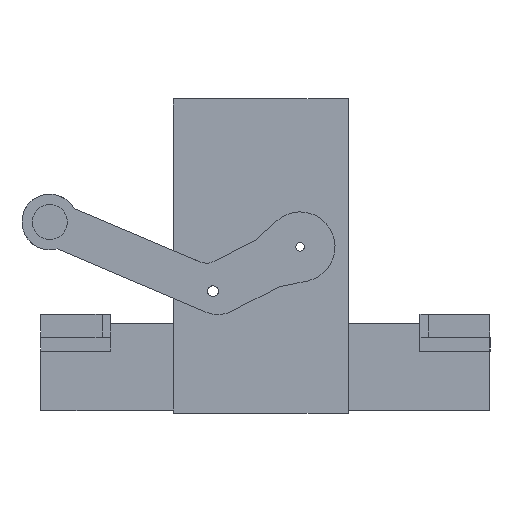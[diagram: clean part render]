
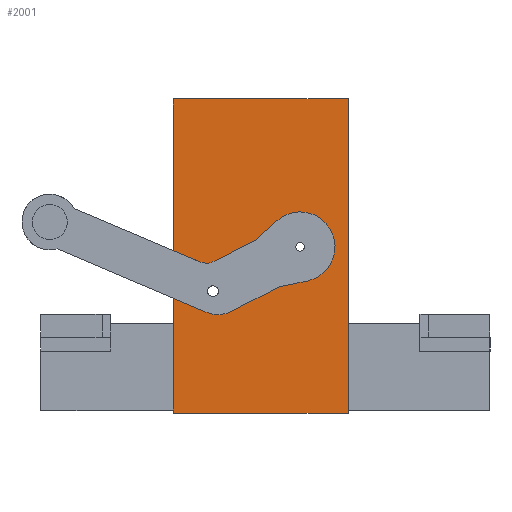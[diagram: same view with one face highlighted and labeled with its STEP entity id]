
A CAD part, left-side view. The second image highlights one B-rep face of the part: STEP entity #2001.
In plain terms, the highlighted planar face has unit normal (-1, 0, 0).
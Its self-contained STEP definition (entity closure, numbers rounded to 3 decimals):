
#79 = ORIENTED_EDGE ( 'NONE', *, *, #13182, .T. ) ;
#156 = EDGE_LOOP ( 'NONE', ( #7883, #8260, #1413, #9358, #12197, #1078, #10067, #6567, #5290, #2905, #12674, #79, #3105, #7528 ) ) ;
#222 = VERTEX_POINT ( 'NONE', #9510 ) ;
#278 = CARTESIAN_POINT ( 'NONE',  ( -128.2, 109.456, 115.563 ) ) ;
#299 = LINE ( 'NONE', #14152, #7609 ) ;
#527 = CARTESIAN_POINT ( 'NONE',  ( -128.2, -7.949, 70.801 ) ) ;
#626 = EDGE_CURVE ( 'NONE', #2154, #6783, #11862, .T. ) ;
#679 = CARTESIAN_POINT ( 'NONE',  ( -128.2, 29.377, 85.453 ) ) ;
#772 = EDGE_CURVE ( 'NONE', #11646, #222, #8035, .T. ) ;
#982 = DIRECTION ( 'NONE',  ( 0., 1., 0. ) ) ;
#1078 = ORIENTED_EDGE ( 'NONE', *, *, #6781, .T. ) ;
#1413 = ORIENTED_EDGE ( 'NONE', *, *, #2176, .T. ) ;
#1438 = DIRECTION ( 'NONE',  ( 0., 0.979, -0.203 ) ) ;
#1766 = DIRECTION ( 'NONE',  ( 0., 0.891, -0.454 ) ) ;
#1788 = VERTEX_POINT ( 'NONE', #7074 ) ;
#1841 = EDGE_CURVE ( 'NONE', #12258, #2154, #12915, .T. ) ;
#1891 = AXIS2_PLACEMENT_3D ( 'NONE', #3229, #1936, #982 ) ;
#1936 = DIRECTION ( 'NONE',  ( -1., 0., 0. ) ) ;
#2001 = ADVANCED_FACE ( 'NONE', ( #2233 ), #7218, .F. ) ;
#2154 = VERTEX_POINT ( 'NONE', #527 ) ;
#2176 = EDGE_CURVE ( 'NONE', #5025, #14812, #10449, .T. ) ;
#2233 = FACE_OUTER_BOUND ( 'NONE', #156, .T. ) ;
#2359 = VERTEX_POINT ( 'NONE', #5622 ) ;
#2905 = ORIENTED_EDGE ( 'NONE', *, *, #4011, .T. ) ;
#2978 = DIRECTION ( 'NONE',  ( 0., 1., 0. ) ) ;
#3013 = VERTEX_POINT ( 'NONE', #14355 ) ;
#3105 = ORIENTED_EDGE ( 'NONE', *, *, #4178, .T. ) ;
#3229 = CARTESIAN_POINT ( 'NONE',  ( -128.2, 33.917, 94.363 ) ) ;
#3252 = DIRECTION ( 'NONE',  ( 0., 0., -1. ) ) ;
#3447 = CARTESIAN_POINT ( 'NONE',  ( -128.2, 52.65, 178.3 ) ) ;
#3545 = VECTOR ( 'NONE', #14259, 1000. ) ;
#3894 = EDGE_CURVE ( 'NONE', #12387, #1788, #299, .T. ) ;
#3899 = EDGE_CURVE ( 'NONE', #1788, #5025, #4806, .T. ) ;
#4011 = EDGE_CURVE ( 'NONE', #10075, #5242, #6561, .T. ) ;
#4152 = DIRECTION ( 'NONE',  ( 0., -0.74, 0.673 ) ) ;
#4178 = EDGE_CURVE ( 'NONE', #3013, #13508, #10312, .T. ) ;
#4301 = CIRCLE ( 'NONE', #7543, 20. ) ;
#4373 = DIRECTION ( 'NONE',  ( 0., -1., 0. ) ) ;
#4380 = LINE ( 'NONE', #12511, #8110 ) ;
#4806 = LINE ( 'NONE', #278, #9778 ) ;
#4814 = DIRECTION ( 'NONE',  ( 0., -0.921, -0.391 ) ) ;
#4827 = AXIS2_PLACEMENT_3D ( 'NONE', #5287, #8547, #2978 ) ;
#5022 = CARTESIAN_POINT ( 'NONE',  ( -128.2, -19.85, 93.7 ) ) ;
#5025 = VERTEX_POINT ( 'NONE', #6226 ) ;
#5242 = VERTEX_POINT ( 'NONE', #12293 ) ;
#5287 = CARTESIAN_POINT ( 'NONE',  ( -128.2, 0., 0. ) ) ;
#5290 = ORIENTED_EDGE ( 'NONE', *, *, #11240, .T. ) ;
#5622 = CARTESIAN_POINT ( 'NONE',  ( -128.2, 52.65, -1.4 ) ) ;
#5642 = CARTESIAN_POINT ( 'NONE',  ( -128.2, 52.65, 178.3 ) ) ;
#5933 = CARTESIAN_POINT ( 'NONE',  ( -128.2, 33.429, 56.133 ) ) ;
#5961 = DIRECTION ( 'NONE',  ( 0., 1., 0. ) ) ;
#6110 = DIRECTION ( 'NONE',  ( 0., -0.891, 0.454 ) ) ;
#6226 = CARTESIAN_POINT ( 'NONE',  ( -128.2, 37.824, 85.158 ) ) ;
#6561 = LINE ( 'NONE', #5933, #3545 ) ;
#6567 = ORIENTED_EDGE ( 'NONE', *, *, #626, .T. ) ;
#6679 = DIRECTION ( 'NONE',  ( 0., 0., 1. ) ) ;
#6781 = EDGE_CURVE ( 'NONE', #222, #12258, #4301, .T. ) ;
#6783 = VERTEX_POINT ( 'NONE', #14311 ) ;
#6808 = VECTOR ( 'NONE', #13956, 1000. ) ;
#7074 = CARTESIAN_POINT ( 'NONE',  ( -128.2, 52.65, 91.451 ) ) ;
#7218 = PLANE ( 'NONE',  #4827 ) ;
#7528 = ORIENTED_EDGE ( 'NONE', *, *, #11807, .T. ) ;
#7543 = AXIS2_PLACEMENT_3D ( 'NONE', #5022, #8529, #10832 ) ;
#7609 = VECTOR ( 'NONE', #12908, 1000. ) ;
#7752 = LINE ( 'NONE', #14234, #10471 ) ;
#7765 = CARTESIAN_POINT ( 'NONE',  ( -128.2, 5.671, 97.531 ) ) ;
#7883 = ORIENTED_EDGE ( 'NONE', *, *, #3894, .T. ) ;
#8035 = LINE ( 'NONE', #10987, #13672 ) ;
#8110 = VECTOR ( 'NONE', #4373, 1000. ) ;
#8250 = CARTESIAN_POINT ( 'NONE',  ( -128.2, -23.917, 74.118 ) ) ;
#8260 = ORIENTED_EDGE ( 'NONE', *, *, #3899, .T. ) ;
#8287 = CARTESIAN_POINT ( 'NONE',  ( -128.2, 52.65, 178.3 ) ) ;
#8529 = DIRECTION ( 'NONE',  ( 1., 0., 0. ) ) ;
#8547 = DIRECTION ( 'NONE',  ( 1., 0., 0. ) ) ;
#9067 = CARTESIAN_POINT ( 'NONE',  ( -128.2, -23.917, 74.118 ) ) ;
#9358 = ORIENTED_EDGE ( 'NONE', *, *, #12983, .T. ) ;
#9510 = CARTESIAN_POINT ( 'NONE',  ( -128.2, -6.399, 108.501 ) ) ;
#9778 = VECTOR ( 'NONE', #4814, 1000. ) ;
#10067 = ORIENTED_EDGE ( 'NONE', *, *, #1841, .T. ) ;
#10075 = VERTEX_POINT ( 'NONE', #10105 ) ;
#10105 = CARTESIAN_POINT ( 'NONE',  ( -128.2, 33.429, 56.133 ) ) ;
#10312 = LINE ( 'NONE', #12361, #14867 ) ;
#10449 = CIRCLE ( 'NONE', #1891, 10. ) ;
#10468 = DIRECTION ( 'NONE',  ( 1., 0., 0. ) ) ;
#10471 = VECTOR ( 'NONE', #6110, 1000. ) ;
#10561 = CARTESIAN_POINT ( 'NONE',  ( -128.2, 27.177, 70.861 ) ) ;
#10652 = CARTESIAN_POINT ( 'NONE',  ( -128.2, -47.35, 178.3 ) ) ;
#10832 = DIRECTION ( 'NONE',  ( 0., 1., 0. ) ) ;
#10987 = CARTESIAN_POINT ( 'NONE',  ( -128.2, 5.671, 97.531 ) ) ;
#11230 = VECTOR ( 'NONE', #1438, 1000. ) ;
#11240 = EDGE_CURVE ( 'NONE', #6783, #10075, #13749, .T. ) ;
#11503 = LINE ( 'NONE', #5642, #12632 ) ;
#11646 = VERTEX_POINT ( 'NONE', #7765 ) ;
#11807 = EDGE_CURVE ( 'NONE', #13508, #12387, #13688, .T. ) ;
#11862 = LINE ( 'NONE', #13266, #14232 ) ;
#12197 = ORIENTED_EDGE ( 'NONE', *, *, #772, .T. ) ;
#12258 = VERTEX_POINT ( 'NONE', #9067 ) ;
#12293 = CARTESIAN_POINT ( 'NONE',  ( -128.2, 52.65, 64.292 ) ) ;
#12361 = CARTESIAN_POINT ( 'NONE',  ( -128.2, -47.35, 178.3 ) ) ;
#12387 = VERTEX_POINT ( 'NONE', #3447 ) ;
#12511 = CARTESIAN_POINT ( 'NONE',  ( -128.2, 52.65, -1.4 ) ) ;
#12632 = VECTOR ( 'NONE', #3252, 1000. ) ;
#12674 = ORIENTED_EDGE ( 'NONE', *, *, #13852, .T. ) ;
#12908 = DIRECTION ( 'NONE',  ( 0., 0., -1. ) ) ;
#12915 = LINE ( 'NONE', #8250, #11230 ) ;
#12983 = EDGE_CURVE ( 'NONE', #14812, #11646, #7752, .T. ) ;
#13182 = EDGE_CURVE ( 'NONE', #2359, #3013, #4380, .T. ) ;
#13266 = CARTESIAN_POINT ( 'NONE',  ( -128.2, -7.949, 70.801 ) ) ;
#13508 = VERTEX_POINT ( 'NONE', #10652 ) ;
#13545 = AXIS2_PLACEMENT_3D ( 'NONE', #10561, #10468, #5961 ) ;
#13672 = VECTOR ( 'NONE', #4152, 1000. ) ;
#13688 = LINE ( 'NONE', #8287, #6808 ) ;
#13749 = CIRCLE ( 'NONE', #13545, 16. ) ;
#13852 = EDGE_CURVE ( 'NONE', #5242, #2359, #11503, .T. ) ;
#13956 = DIRECTION ( 'NONE',  ( 0., 1., 0. ) ) ;
#14152 = CARTESIAN_POINT ( 'NONE',  ( -128.2, 52.65, 178.3 ) ) ;
#14232 = VECTOR ( 'NONE', #1766, 1000. ) ;
#14234 = CARTESIAN_POINT ( 'NONE',  ( -128.2, 29.377, 85.453 ) ) ;
#14259 = DIRECTION ( 'NONE',  ( 0., 0.921, 0.391 ) ) ;
#14311 = CARTESIAN_POINT ( 'NONE',  ( -128.2, 19.913, 56.605 ) ) ;
#14355 = CARTESIAN_POINT ( 'NONE',  ( -128.2, -47.35, -1.4 ) ) ;
#14812 = VERTEX_POINT ( 'NONE', #679 ) ;
#14867 = VECTOR ( 'NONE', #6679, 1000. ) ;
